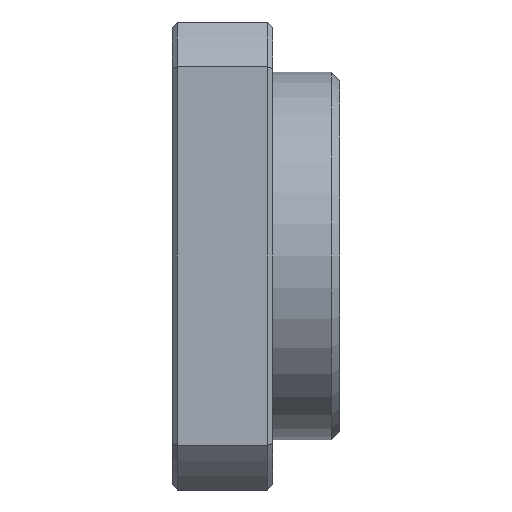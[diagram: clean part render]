
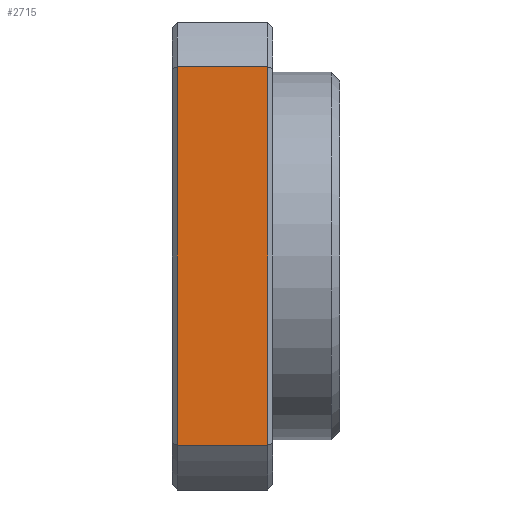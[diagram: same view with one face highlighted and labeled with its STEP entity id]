
A CAD part, front view. The second image highlights one B-rep face of the part: STEP entity #2715.
In plain terms, the highlighted planar face has unit normal (0, -1, 0).
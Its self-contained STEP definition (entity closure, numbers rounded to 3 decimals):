
#27 = EDGE_CURVE ( 'NONE', #809, #946, #1476, .T. ) ;
#29 = EDGE_CURVE ( 'NONE', #943, #918, #1472, .T. ) ;
#30 = ORIENTED_EDGE ( 'NONE', *, *, #29, .T. ) ;
#289 = ORIENTED_EDGE ( 'NONE', *, *, #937, .T. ) ;
#518 = DIRECTION ( 'NONE',  ( 0., 0., -1. ) ) ;
#519 = DIRECTION ( 'NONE',  ( 0., -1., 0. ) ) ;
#520 = CARTESIAN_POINT ( 'NONE',  ( 50., -14., -14. ) ) ;
#522 = AXIS2_PLACEMENT_3D ( 'NONE', #520, #519, #518 ) ;
#523 = FACE_OUTER_BOUND ( 'NONE', #2685, .T. ) ;
#528 = PLANE ( 'NONE',  #522 ) ;
#649 = ORIENTED_EDGE ( 'NONE', *, *, #27, .T. ) ;
#809 = VERTEX_POINT ( 'NONE', #1945 ) ;
#918 = VERTEX_POINT ( 'NONE', #2160 ) ;
#919 = EDGE_CURVE ( 'NONE', #918, #809, #2156, .T. ) ;
#937 = EDGE_CURVE ( 'NONE', #946, #943, #2195, .T. ) ;
#943 = VERTEX_POINT ( 'NONE', #2190 ) ;
#946 = VERTEX_POINT ( 'NONE', #2184 ) ;
#1469 = DIRECTION ( 'NONE',  ( 0., 0., 1. ) ) ;
#1470 = VECTOR ( 'NONE', #1469, 1000. ) ;
#1471 = CARTESIAN_POINT ( 'NONE',  ( 5.7, -14., 11.314 ) ) ;
#1472 = LINE ( 'NONE', #1471, #1470 ) ;
#1473 = DIRECTION ( 'NONE',  ( 0., 0., -1. ) ) ;
#1474 = VECTOR ( 'NONE', #1473, 1000. ) ;
#1475 = CARTESIAN_POINT ( 'NONE',  ( 0.3, -14., -11.314 ) ) ;
#1476 = LINE ( 'NONE', #1475, #1474 ) ;
#1945 = CARTESIAN_POINT ( 'NONE',  ( 0.3, -14., 11.314 ) ) ;
#2153 = DIRECTION ( 'NONE',  ( -1., 0., 0. ) ) ;
#2154 = VECTOR ( 'NONE', #2153, 1000. ) ;
#2155 = CARTESIAN_POINT ( 'NONE',  ( -81.647, -14., 11.314 ) ) ;
#2156 = LINE ( 'NONE', #2155, #2154 ) ;
#2160 = CARTESIAN_POINT ( 'NONE',  ( 5.7, -14., 11.314 ) ) ;
#2184 = CARTESIAN_POINT ( 'NONE',  ( 0.3, -14., -11.314 ) ) ;
#2190 = CARTESIAN_POINT ( 'NONE',  ( 5.7, -14., -11.314 ) ) ;
#2192 = DIRECTION ( 'NONE',  ( 1., 0., 0. ) ) ;
#2193 = VECTOR ( 'NONE', #2192, 1000. ) ;
#2194 = CARTESIAN_POINT ( 'NONE',  ( -81.647, -14., -11.314 ) ) ;
#2195 = LINE ( 'NONE', #2194, #2193 ) ;
#2685 = EDGE_LOOP ( 'NONE', ( #2686, #649, #289, #30 ) ) ;
#2686 = ORIENTED_EDGE ( 'NONE', *, *, #919, .T. ) ;
#2715 = ADVANCED_FACE ( 'NONE', ( #523 ), #528, .T. ) ;
